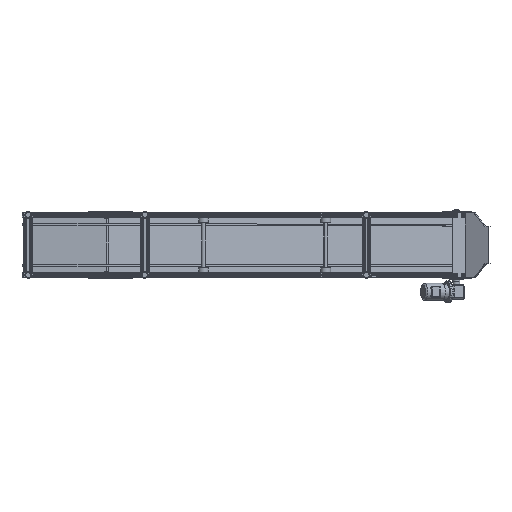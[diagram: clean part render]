
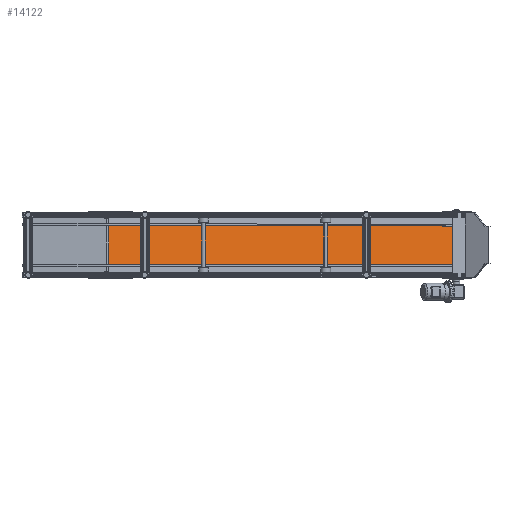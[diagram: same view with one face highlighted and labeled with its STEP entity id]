
A CAD part, top view. The second image highlights one B-rep face of the part: STEP entity #14122.
In plain terms, the highlighted planar face has unit normal (0.375, 0, 0.927) as drawn and (0, -1, 0) by its records, which use the part's own axes.
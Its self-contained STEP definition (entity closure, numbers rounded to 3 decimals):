
#8921=PLANE('',#117474);
#14122=ADVANCED_FACE('',(#21093),#8921,.F.);
#21093=FACE_OUTER_BOUND('',#27170,.T.);
#27170=EDGE_LOOP('',(#77422,#77423,#77424,#77425));
#37609=LINE('',#183612,#48203);
#37612=LINE('',#183620,#48206);
#37632=LINE('',#183680,#48226);
#37701=LINE('',#183831,#48295);
#48203=VECTOR('',#143756,1.);
#48206=VECTOR('',#143763,1.);
#48226=VECTOR('',#143807,1.);
#48295=VECTOR('',#143934,1.);
#77422=ORIENTED_EDGE('',*,*,#104829,.F.);
#77423=ORIENTED_EDGE('',*,*,#104903,.F.);
#77424=ORIENTED_EDGE('',*,*,#104799,.F.);
#77425=ORIENTED_EDGE('',*,*,#104795,.T.);
#89678=VERTEX_POINT('',#183607);
#89680=VERTEX_POINT('',#183611);
#89684=VERTEX_POINT('',#183621);
#89711=VERTEX_POINT('',#183679);
#104795=EDGE_CURVE('',#89678,#89680,#37609,.T.);
#104799=EDGE_CURVE('',#89678,#89684,#37612,.T.);
#104829=EDGE_CURVE('',#89711,#89680,#37632,.T.);
#104903=EDGE_CURVE('',#89684,#89711,#37701,.T.);
#117474=AXIS2_PLACEMENT_3D('',#183832,#143935,#143936);
#143756=DIRECTION('',(0.,0.,-1.));
#143763=DIRECTION('',(1.,0.,0.));
#143807=DIRECTION('',(-1.,0.,0.));
#143934=DIRECTION('',(0.,0.,-1.));
#143935=DIRECTION('',(0.,1.,0.));
#143936=DIRECTION('',(1.,0.,0.));
#183607=CARTESIAN_POINT('',(-3453.369,-122.5,424.5));
#183611=CARTESIAN_POINT('',(-3453.369,-122.5,73.5));
#183612=CARTESIAN_POINT('',(-3453.369,-122.5,498.));
#183620=CARTESIAN_POINT('',(-3453.369,-122.5,424.5));
#183621=CARTESIAN_POINT('',(-14.06,-122.5,424.5));
#183679=CARTESIAN_POINT('',(-14.06,-122.5,73.5));
#183680=CARTESIAN_POINT('',(-14.06,-122.5,73.5));
#183831=CARTESIAN_POINT('',(-14.06,-122.5,498.));
#183832=CARTESIAN_POINT('',(634.328,-122.5,498.));
